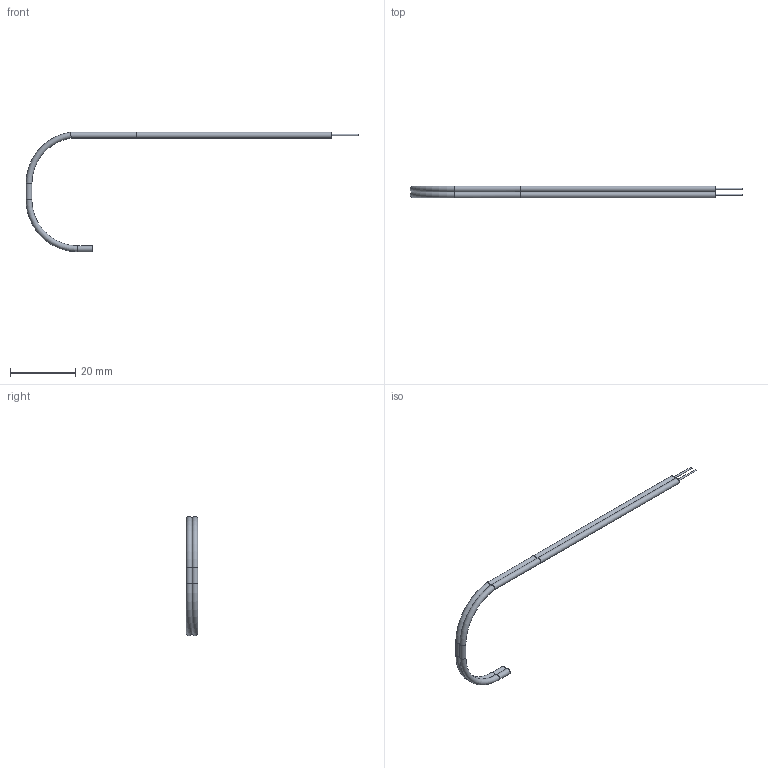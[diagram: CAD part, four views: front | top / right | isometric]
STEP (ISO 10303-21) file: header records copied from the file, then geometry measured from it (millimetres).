
FILE_DESCRIPTION(/* description */ (''),/* implementation_level */ '2;1');
FILE_NAME(/* name */ 'C:\Data\Vault\LE-TPD\9290 016 25700_EasyAir SNH200\9290-016-25700 sh-010 2019-11-12.stp',/* time_stamp */ '2019-11-12T15:53:42+01:00',/* author */ ('nly19266'),/* organization */ (''),/* preprocessor_version */ 'ST-DEVELOPER v16.5',/* originating_system */ 'Autodesk Inventor 2017',/* authorisation */ '');
FILE_SCHEMA (('AUTOMOTIVE_DESIGN { 1 0 10303 214 3 1 1 }'));
Length unit declared in the file: millimetre
Products named in the file (1): 9290-016-25700 sh010 2019-11-12
Bounding box: 101.78 x 3.6 x 36.65 mm (x, y, z)
Volume: 308.5 mm3; surface area: 1567.4 mm2
Topology: 3 solids, 4 shells, 24 faces, 30 edges, 13 vertices
Faces by surface type: cylinder 12, plane 8, torus 4
Full cylindrical faces by diameter (mm): 0.5 x2, 1.8 x8
Entity records: 45843 total; most frequent: CARTESIAN_POINT 17362, ORIENTED_EDGE 6088, DIRECTION 4748, EDGE_CURVE 3036, VERTEX_POINT 1993, AXIS2_PLACEMENT_3D 1634, LINE 1480, VECTOR 1480
